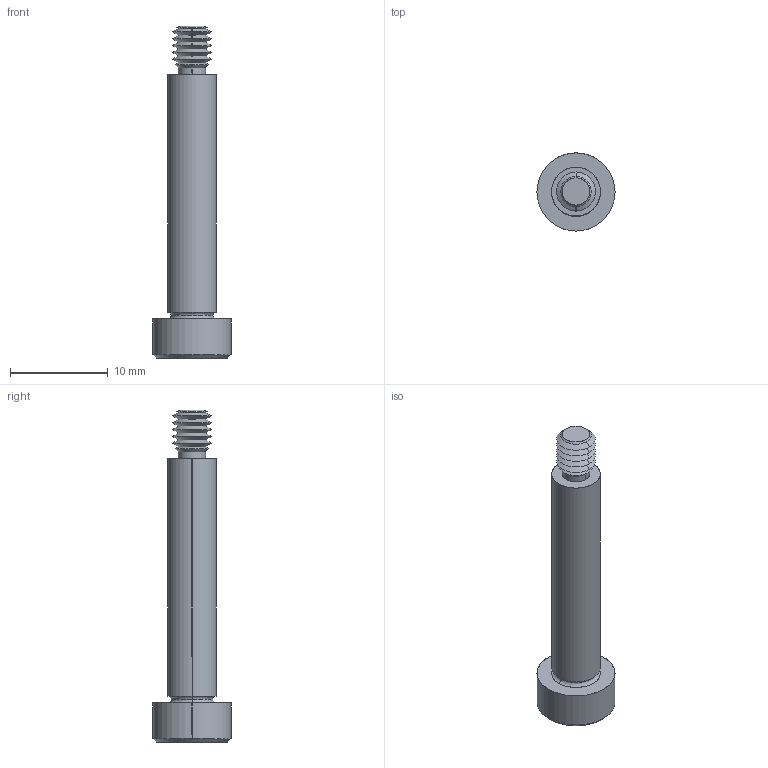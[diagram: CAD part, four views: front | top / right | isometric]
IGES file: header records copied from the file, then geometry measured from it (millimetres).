
Start section: SolidWorks IGES file using analytic representation for surfaces
Global section: file name: C:\Users\IanO\Documents\Temp Folder\GENERAL\SCREW REVISION\P0130_v2\P0130.T5_v2_20220106_IGES\P0130.050-025-T5.igs; native system: SolidWorks 2019; preprocessor: SolidWorks 2019; author: IanO; date: 220106.221710; units: millimetre
Bounding box: 8 x 8 x 34 mm (x, y, z)
Surface area: 708.7 mm2 (no closed solid volume)
Topology: 0 solids, 0 shells, 64 faces, 504 edges, 502 vertices
Faces by surface type: revolution 44, bspline 20
